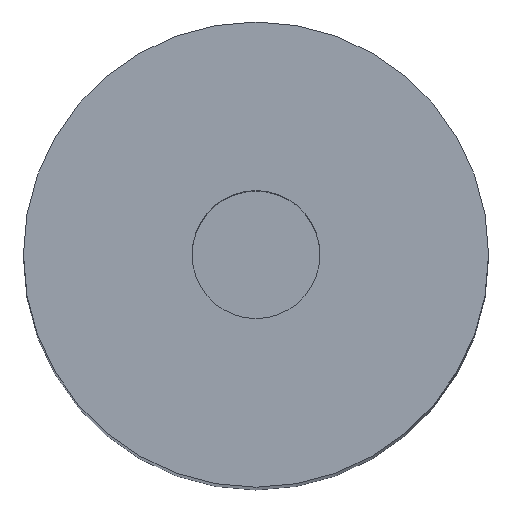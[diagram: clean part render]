
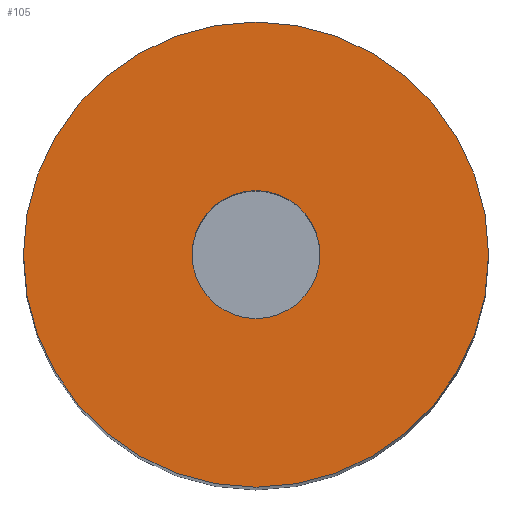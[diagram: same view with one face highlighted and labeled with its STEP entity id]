
A CAD part, top view. The second image highlights one B-rep face of the part: STEP entity #105.
In plain terms, the highlighted planar face has unit normal (0, 0, 1).
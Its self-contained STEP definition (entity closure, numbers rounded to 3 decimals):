
#21 = EDGE_CURVE('',#22,#22,#24,.T.);
#22 = VERTEX_POINT('',#23);
#23 = CARTESIAN_POINT('',(6.,0.,41.));
#24 = SURFACE_CURVE('',#25,(#30,#42),.PCURVE_S1.);
#25 = CIRCLE('',#26,6.);
#26 = AXIS2_PLACEMENT_3D('',#27,#28,#29);
#27 = CARTESIAN_POINT('',(0.,0.,41.));
#28 = DIRECTION('',(0.,0.,1.));
#29 = DIRECTION('',(1.,0.,-0.));
#30 = PCURVE('',#31,#36);
#31 = CYLINDRICAL_SURFACE('',#32,6.);
#32 = AXIS2_PLACEMENT_3D('',#33,#34,#35);
#33 = CARTESIAN_POINT('',(0.,0.,0.));
#34 = DIRECTION('',(0.,0.,1.));
#35 = DIRECTION('',(1.,0.,-0.));
#36 = DEFINITIONAL_REPRESENTATION('',(#37),#41);
#37 = LINE('',#38,#39);
#38 = CARTESIAN_POINT('',(0.,41.));
#39 = VECTOR('',#40,1.);
#40 = DIRECTION('',(1.,0.));
#41 = ( GEOMETRIC_REPRESENTATION_CONTEXT(2) 
PARAMETRIC_REPRESENTATION_CONTEXT() REPRESENTATION_CONTEXT('2D SPACE',''
  ) );
#42 = PCURVE('',#43,#48);
#43 = PLANE('',#44);
#44 = AXIS2_PLACEMENT_3D('',#45,#46,#47);
#45 = CARTESIAN_POINT('',(0.,0.,41.));
#46 = DIRECTION('',(0.,0.,1.));
#47 = DIRECTION('',(1.,0.,-0.));
#48 = DEFINITIONAL_REPRESENTATION('',(#49),#53);
#49 = CIRCLE('',#50,6.);
#50 = AXIS2_PLACEMENT_2D('',#51,#52);
#51 = CARTESIAN_POINT('',(0.,0.));
#52 = DIRECTION('',(1.,0.));
#53 = ( GEOMETRIC_REPRESENTATION_CONTEXT(2) 
PARAMETRIC_REPRESENTATION_CONTEXT() REPRESENTATION_CONTEXT('2D SPACE',''
  ) );
#105 = ADVANCED_FACE('',(#106,#109),#43,.T.);
#106 = FACE_BOUND('',#107,.T.);
#107 = EDGE_LOOP('',(#108));
#108 = ORIENTED_EDGE('',*,*,#21,.T.);
#109 = FACE_BOUND('',#110,.T.);
#110 = EDGE_LOOP('',(#111));
#111 = ORIENTED_EDGE('',*,*,#112,.T.);
#112 = EDGE_CURVE('',#113,#113,#115,.T.);
#113 = VERTEX_POINT('',#114);
#114 = CARTESIAN_POINT('',(-1.65,0.,41.));
#115 = SURFACE_CURVE('',#116,(#121,#132),.PCURVE_S1.);
#116 = CIRCLE('',#117,1.65);
#117 = AXIS2_PLACEMENT_3D('',#118,#119,#120);
#118 = CARTESIAN_POINT('',(0.,0.,41.));
#119 = DIRECTION('',(0.,0.,-1.));
#120 = DIRECTION('',(-1.,0.,-0.));
#121 = PCURVE('',#43,#122);
#122 = DEFINITIONAL_REPRESENTATION('',(#123),#131);
#123 = ( BOUNDED_CURVE() B_SPLINE_CURVE(2,(#124,#125,#126,#127,#128,#129
,#130),.UNSPECIFIED.,.T.,.F.) B_SPLINE_CURVE_WITH_KNOTS((1,2,2,2,2,1),(
    -2.094,0.,2.094,4.189,6.283,
8.378),.UNSPECIFIED.) CURVE() GEOMETRIC_REPRESENTATION_ITEM() 
RATIONAL_B_SPLINE_CURVE((1.,0.5,1.,0.5,1.,0.5,1.)) REPRESENTATION_ITEM(
  '') );
#124 = CARTESIAN_POINT('',(-1.65,0.));
#125 = CARTESIAN_POINT('',(-1.65,2.858));
#126 = CARTESIAN_POINT('',(0.825,1.429));
#127 = CARTESIAN_POINT('',(3.3,0.));
#128 = CARTESIAN_POINT('',(0.825,-1.429));
#129 = CARTESIAN_POINT('',(-1.65,-2.858));
#130 = CARTESIAN_POINT('',(-1.65,0.));
#131 = ( GEOMETRIC_REPRESENTATION_CONTEXT(2) 
PARAMETRIC_REPRESENTATION_CONTEXT() REPRESENTATION_CONTEXT('2D SPACE',''
  ) );
#132 = PCURVE('',#133,#138);
#133 = CYLINDRICAL_SURFACE('',#134,1.65);
#134 = AXIS2_PLACEMENT_3D('',#135,#136,#137);
#135 = CARTESIAN_POINT('',(0.,0.,41.));
#136 = DIRECTION('',(0.,0.,-1.));
#137 = DIRECTION('',(-1.,0.,-0.));
#138 = DEFINITIONAL_REPRESENTATION('',(#139),#143);
#139 = LINE('',#140,#141);
#140 = CARTESIAN_POINT('',(0.,0.));
#141 = VECTOR('',#142,1.);
#142 = DIRECTION('',(1.,0.));
#143 = ( GEOMETRIC_REPRESENTATION_CONTEXT(2) 
PARAMETRIC_REPRESENTATION_CONTEXT() REPRESENTATION_CONTEXT('2D SPACE',''
  ) );
